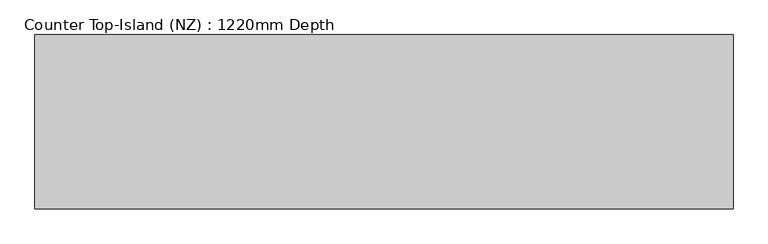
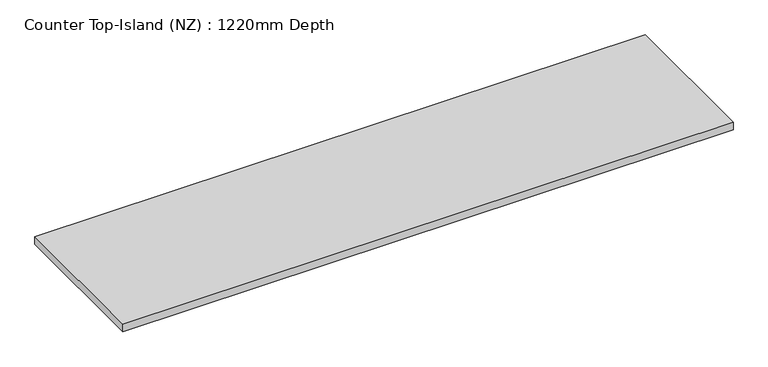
"""IFC4 building model written with IfcOpenShell, lengths in millimetres: furniture geometry, Counter Top-Island (NZ) : 1220mm Depth."""

from ifc_helpers import new_model, si_unit, frame, origin, place, context, project, spatial, polyline, outline, extrude, source, transform, mapped, element, save


def counter_top_island_nz_1220mm_depth_cad61509(model_context):
    return source(origin(), model_context, "Body", "SweptSolid", [
        extrude(outline(polyline([(1999.8979291, -25.4), (-1200.4622951, -25.4), (-1200.4622951, 774.6), (1999.8979291, 774.6), (1999.8979291, -25.4)])), frame((0.0, 0.0, 860.0), z_axis=(0.0, 0.0, 1.0), x_axis=(1.0, 0.0, 0.0)), (0.0, 0.0, 1.0), 40.0),
    ])


if __name__ == "__main__":
    model = new_model("IFC4")
    model_context = context("Model", 3, world=origin())
    ifc_project = project(units=[si_unit("LENGTHUNIT", "METRE", prefix="MILLI")], contexts=[model_context])
    site = spatial("IfcSite", under=ifc_project)
    building = spatial("IfcBuilding", under=site)
    placement = place(None, origin())
    counter_top_island_nz_1220mm_depth_shape = counter_top_island_nz_1220mm_depth_cad61509(model_context)
    element("IfcFurniture", 1, ObjectType="Counter Top-Island (NZ) : 1220mm Depth", at=placement, inside=building, context=model_context, shape_type="MappedRepresentation", body=[
        mapped(counter_top_island_nz_1220mm_depth_shape, transform((0.0, 0.0, 0.0), x_axis=(1.0, 0.0, 0.0), y_axis=(0.0, 1.0, 0.0), z_axis=(0.0, 0.0, 1.0))),
    ])
    save(model, "model.ifc")
